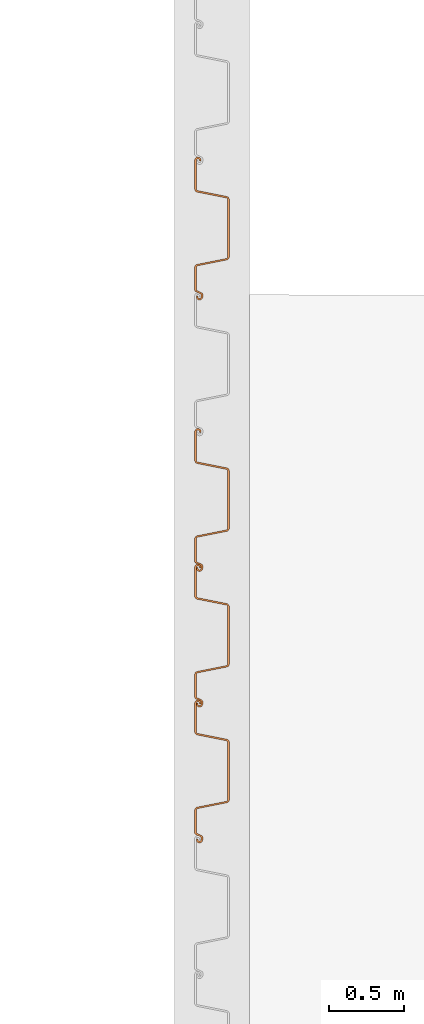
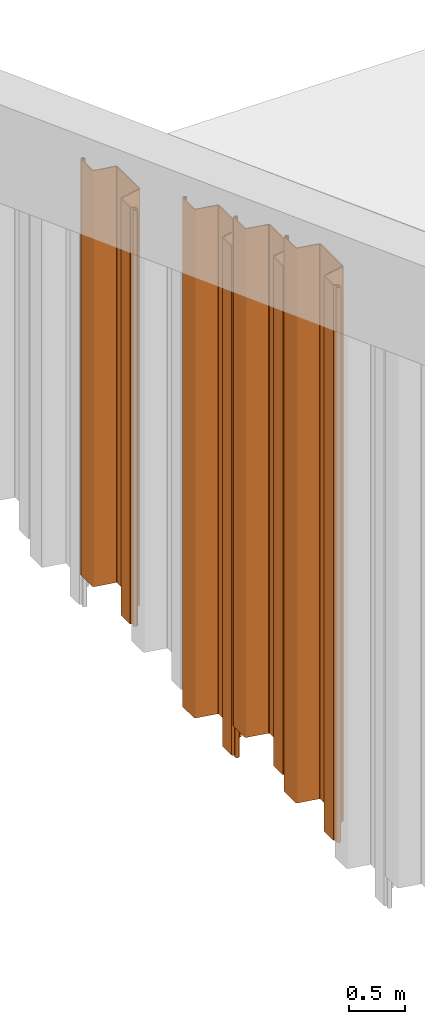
# One storey, part 13 of 15: 4 proxies.
"""IFC2X3 building model written with IfcOpenShell, lengths in millimetres."""

from ifc_helpers import new_model, entity, si_unit, converted_unit, derived_unit, direction, frame, frame_2d, origin, place, context, subcontext, project, spatial, polyline, circle_curve, parameter, trimmed, segment, composite_curve, outline, extrude, source, transform, mapped, material, type_object, type_shapes, element, save


model = new_model("IFC2X3")

# Units and contexts
model_context = context("Model", 3, precision=0.01, world=origin(), true_north=direction((6.12303176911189e-17, 1.0)))
body_context = subcontext(model_context, "Body", "Model", "MODEL_VIEW")
ifc_project = project(units=[si_unit("LENGTHUNIT", "METRE", prefix="MILLI"), si_unit("AREAUNIT", "SQUARE_METRE"), si_unit("VOLUMEUNIT", "CUBIC_METRE"), converted_unit("PLANEANGLEUNIT", "DEGREE", entity("IfcRatioMeasure", 0.0174532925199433), si_unit("PLANEANGLEUNIT", "RADIAN"), dimensions=[0, 0, 0, 0, 0, 0, 0]), si_unit("MASSUNIT", "GRAM", prefix="KILO"), derived_unit("MASSDENSITYUNIT", [(si_unit("MASSUNIT", "GRAM", prefix="KILO"), 1), (si_unit("LENGTHUNIT", "METRE"), -3)]), derived_unit("MOMENTOFINERTIAUNIT", [(si_unit("LENGTHUNIT", "METRE"), 4)]), si_unit("TIMEUNIT", "SECOND"), si_unit("FREQUENCYUNIT", "HERTZ"), si_unit("THERMODYNAMICTEMPERATUREUNIT", "DEGREE_CELSIUS"), derived_unit("THERMALTRANSMITTANCEUNIT", [(si_unit("MASSUNIT", "GRAM", prefix="KILO"), 1), (si_unit("THERMODYNAMICTEMPERATUREUNIT", "KELVIN"), -1), (si_unit("TIMEUNIT", "SECOND"), -3)]), derived_unit("VOLUMETRICFLOWRATEUNIT", [(si_unit("LENGTHUNIT", "METRE"), 3), (si_unit("TIMEUNIT", "SECOND"), -1)]), si_unit("ELECTRICCURRENTUNIT", "AMPERE"), si_unit("ELECTRICVOLTAGEUNIT", "VOLT"), si_unit("POWERUNIT", "WATT"), si_unit("FORCEUNIT", "NEWTON", prefix="KILO"), si_unit("ILLUMINANCEUNIT", "LUX"), si_unit("LUMINOUSFLUXUNIT", "LUMEN"), si_unit("LUMINOUSINTENSITYUNIT", "CANDELA"), derived_unit("USERDEFINED", [(si_unit("MASSUNIT", "GRAM", prefix="KILO"), -1), (si_unit("LENGTHUNIT", "METRE"), -2), (si_unit("TIMEUNIT", "SECOND"), 3), (si_unit("LUMINOUSFLUXUNIT", "LUMEN"), 1)]), derived_unit("LINEARVELOCITYUNIT", [(si_unit("LENGTHUNIT", "METRE"), 1), (si_unit("TIMEUNIT", "SECOND"), -1)]), si_unit("PRESSUREUNIT", "PASCAL"), derived_unit("USERDEFINED", [(si_unit("LENGTHUNIT", "METRE"), -2), (si_unit("MASSUNIT", "GRAM", prefix="KILO"), 1), (si_unit("TIMEUNIT", "SECOND"), -2)]), derived_unit("LINEARFORCEUNIT", [(si_unit("MASSUNIT", "GRAM", prefix="KILO"), 1), (si_unit("LENGTHUNIT", "METRE"), 1), (si_unit("TIMEUNIT", "SECOND"), -2), (si_unit("LENGTHUNIT", "METRE"), -1)]), derived_unit("PLANARFORCEUNIT", [(si_unit("MASSUNIT", "GRAM", prefix="KILO"), 1), (si_unit("LENGTHUNIT", "METRE"), 1), (si_unit("TIMEUNIT", "SECOND"), -2), (si_unit("LENGTHUNIT", "METRE"), -2)])], contexts=[model_context])

# Site, building, storey
site_placement = place(None, origin())
site = spatial("IfcSite", under=ifc_project, at=site_placement, Name="Default", CompositionType="ELEMENT")
building_placement = place(site_placement, origin())
building = spatial("IfcBuilding", under=site, at=building_placement, CompositionType="ELEMENT")
storey_placement = place(building_placement, frame((0.0, 0.0, 9500.0)))
storey = spatial("IfcBuildingStorey", under=building, at=storey_placement, Name="AP+9.500", CompositionType="ELEMENT", Elevation=9500.0)

# Proxies
ifc_material = material(Name="<Unnamed>")
building_element_proxy_type_1 = type_object("IfcBuildingElementProxyType", Name="鋼矢板10H型:鋼矢板10H型", PredefinedType="NOTDEFINED", material=ifc_material)
shared_shape_1 = source(origin(), body_context, "Body", "SweptSolid", [
    extrude(outline(composite_curve([segment(trimmed(circle_curve(frame_2d((85.3662976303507, 306.644432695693), x_axis=(0.422618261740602, 0.906307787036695)), 13.885714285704), [parameter(24.9999999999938)], [parameter(90.0000000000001)], True, "PARAMETER"), True, "CONTINUOUS"), segment(polyline([(72.7815666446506, 312.512789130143), (9.8129512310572, 177.476157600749)]), True, "CONTINUOUS"), segment(trimmed(circle_curve(frame_2d((29.3891994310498, 168.347603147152), x_axis=(0.422618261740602, 0.906307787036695)), 21.6), [parameter(90.0000000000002)], [parameter(168.69006752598)], True, "PARAMETER"), True, "CONTINUOUS"), segment(polyline([(16.598697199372, 150.941769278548), (175.329723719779, 34.2998683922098)]), True, "CONTINUOUS"), segment(trimmed(circle_curve(frame_2d((168.93447260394, 25.596951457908), x_axis=(0.422618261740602, 0.906307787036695)), 10.7999999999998), [parameter(270.0)], [parameter(348.690067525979)], True, "PARAMETER"), False, "CONTINUOUS"), segment(polyline([(178.722596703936, 21.0326742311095), (18.2974003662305, -323.000269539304)]), True, "CONTINUOUS"), segment(trimmed(circle_curve(frame_2d((8.50927626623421, -318.435992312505), x_axis=(0.422618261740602, 0.906307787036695)), 10.8), [parameter(191.30993247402)], [parameter(269.999999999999)], True, "PARAMETER"), False, "CONTINUOUS"), segment(polyline([(5.95324328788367, -328.929166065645), (-185.429973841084, -282.310113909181)]), True, "CONTINUOUS"), segment(trimmed(circle_curve(frame_2d((-190.542039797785, -303.296461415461), x_axis=(0.422618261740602, 0.906307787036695)), 21.6000000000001), [parameter(11.3099324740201)], [parameter(90.0000000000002)], True, "PARAMETER"), True, "CONTINUOUS"), segment(polyline([(-210.118287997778, -294.167906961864), (-290.330886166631, -466.184378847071)]), True, "CONTINUOUS"), segment(trimmed(circle_curve(frame_2d((-270.754637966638, -475.312933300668), x_axis=(0.422618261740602, 0.906307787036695)), 21.6), [parameter(90.0000000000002)], [parameter(269.999999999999)], True, "PARAMETER"), True, "CONTINUOUS"), segment(polyline([(-251.178389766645, -484.441487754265), (-249.065298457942, -479.909948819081)]), True, "CONTINUOUS"), segment(polyline([(-249.065298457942, -479.909948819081), (-258.853422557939, -475.345671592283)]), True, "CONTINUOUS"), segment(polyline([(-258.853422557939, -475.345671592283), (-260.966513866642, -479.877210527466)]), True, "CONTINUOUS"), segment(trimmed(circle_curve(frame_2d((-270.754637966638, -475.312933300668), x_axis=(0.422618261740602, 0.906307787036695)), 10.8), [parameter(90.0000000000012)], [parameter(270.0)], True, "PARAMETER"), False, "CONTINUOUS"), segment(polyline([(-280.542762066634, -470.748656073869), (-200.330163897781, -298.732184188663)]), True, "CONTINUOUS"), segment(trimmed(circle_curve(frame_2d((-190.542039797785, -303.296461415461), x_axis=(0.422618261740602, 0.906307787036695)), 10.8), [parameter(11.3099324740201)], [parameter(89.9999999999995)], True, "PARAMETER"), False, "CONTINUOUS"), segment(polyline([(-187.986006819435, -292.803287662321), (3.39721030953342, -339.422339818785)]), True, "CONTINUOUS"), segment(trimmed(circle_curve(frame_2d((8.50927626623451, -318.435992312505), x_axis=(0.422618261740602, 0.906307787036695)), 21.6), [parameter(191.30993247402)], [parameter(270.0)], True, "PARAMETER"), True, "CONTINUOUS"), segment(polyline([(28.0855244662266, -327.564546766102), (188.510720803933, 16.4683970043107)]), True, "CONTINUOUS"), segment(trimmed(circle_curve(frame_2d((168.93447260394, 25.5969514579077), x_axis=(0.422618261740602, 0.906307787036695)), 21.6), [parameter(270.0)], [parameter(348.69006752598)], True, "PARAMETER"), True, "CONTINUOUS"), segment(polyline([(181.724974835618, 43.0027853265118), (22.9939483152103, 159.644686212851)]), True, "CONTINUOUS"), segment(trimmed(circle_curve(frame_2d((29.3891994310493, 168.347603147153), x_axis=(0.422618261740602, 0.906307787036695)), 10.7999999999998), [parameter(89.9999999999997)], [parameter(168.690067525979)], True, "PARAMETER"), False, "CONTINUOUS"), segment(polyline([(19.6010753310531, 172.911880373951), (82.5696907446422, 307.948511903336)]), True, "CONTINUOUS"), segment(trimmed(circle_curve(frame_2d((85.3662976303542, 306.64443269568), x_axis=(0.422618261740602, 0.906307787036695)), 3.08571428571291), [parameter(25.0000000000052)], [parameter(90.0000000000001)], True, "PARAMETER"), False, "CONTINUOUS"), segment(polyline([(85.3662976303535, 309.730146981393), (122.220231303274, 309.730146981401)]), True, "CONTINUOUS"), segment(trimmed(circle_curve(frame_2d((122.220231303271, 323.615861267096), x_axis=(0.422618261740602, 0.906307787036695)), 13.8857142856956), [parameter(205.000000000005)], [parameter(270.0)], True, "PARAMETER"), True, "CONTINUOUS"), segment(polyline([(134.804962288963, 317.747504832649), (141.079261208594, 331.202782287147)]), True, "CONTINUOUS"), segment(trimmed(circle_curve(frame_2d((121.503013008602, 340.331336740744), x_axis=(0.422618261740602, 0.906307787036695)), 21.6), [parameter(270.0)], [parameter(90.0000000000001)], True, "PARAMETER"), True, "CONTINUOUS"), segment(polyline([(101.926764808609, 349.459891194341), (99.8136734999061, 344.928352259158)]), True, "CONTINUOUS"), segment(polyline([(99.8136734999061, 344.928352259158), (109.601797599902, 340.364075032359)]), True, "CONTINUOUS"), segment(polyline([(109.601797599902, 340.364075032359), (111.714888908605, 344.895613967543)]), True, "CONTINUOUS"), segment(trimmed(circle_curve(frame_2d((121.503013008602, 340.331336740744), x_axis=(0.422618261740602, 0.906307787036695)), 10.8), [parameter(270.0)], [parameter(89.9999999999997)], True, "PARAMETER"), False, "CONTINUOUS"), segment(polyline([(131.291137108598, 335.767059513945), (125.01683818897, 322.311782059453)]), True, "CONTINUOUS"), segment(trimmed(circle_curve(frame_2d((122.220231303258, 323.615861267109), x_axis=(0.422618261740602, 0.906307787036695)), 3.08571428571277), [parameter(204.999999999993)], [parameter(270.0)], True, "PARAMETER"), False, "CONTINUOUS"), segment(polyline([(122.220231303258, 320.530146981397), (85.3662976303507, 320.530146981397)]), True, "CONTINUOUS")], self_intersect=False)), frame((95.205667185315, -48.8888888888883, -4500.0), z_axis=(0.0, 0.0, -1.0), x_axis=(0.4226182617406, 0.906307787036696, 0.0)), (0.0, 0.0, -1.0), 4500.0),
])
type_shapes(building_element_proxy_type_1, [shared_shape_1])
proxy_1_placement = place(storey_placement, frame((89754.0, 23005.0, 809.453726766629), z_axis=(0.0, 0.0, 1.0), x_axis=(0.0, -1.0, 0.0)))
element("IfcBuildingElementProxy", 1, at=proxy_1_placement, inside=storey, type_object=building_element_proxy_type_1, material=ifc_material, Name="鋼矢板10H型:鋼矢板10H型", ObjectType="鋼矢板10H型:鋼矢板10H型", context=body_context, shape_type="MappedRepresentation", body=[
    mapped(shared_shape_1, transform((0.0, 0.0, 0.0), scale=1.0)),
])
building_element_proxy_type_2 = type_object("IfcBuildingElementProxyType", Name="鋼矢板10H型:鋼矢板10H型", PredefinedType="NOTDEFINED", material=ifc_material)
shared_shape_2 = source(origin(), body_context, "Body", "SweptSolid", [
    extrude(outline(composite_curve([segment(trimmed(circle_curve(frame_2d((85.3662976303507, 306.644432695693), x_axis=(0.422618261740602, 0.906307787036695)), 13.885714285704), [parameter(24.9999999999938)], [parameter(90.0000000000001)], True, "PARAMETER"), True, "CONTINUOUS"), segment(polyline([(72.7815666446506, 312.512789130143), (9.8129512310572, 177.476157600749)]), True, "CONTINUOUS"), segment(trimmed(circle_curve(frame_2d((29.3891994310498, 168.347603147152), x_axis=(0.422618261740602, 0.906307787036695)), 21.6), [parameter(90.0000000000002)], [parameter(168.69006752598)], True, "PARAMETER"), True, "CONTINUOUS"), segment(polyline([(16.598697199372, 150.941769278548), (175.329723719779, 34.2998683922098)]), True, "CONTINUOUS"), segment(trimmed(circle_curve(frame_2d((168.93447260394, 25.596951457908), x_axis=(0.422618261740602, 0.906307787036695)), 10.7999999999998), [parameter(270.0)], [parameter(348.690067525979)], True, "PARAMETER"), False, "CONTINUOUS"), segment(polyline([(178.722596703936, 21.0326742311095), (18.2974003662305, -323.000269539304)]), True, "CONTINUOUS"), segment(trimmed(circle_curve(frame_2d((8.50927626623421, -318.435992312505), x_axis=(0.422618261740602, 0.906307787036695)), 10.8), [parameter(191.30993247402)], [parameter(269.999999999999)], True, "PARAMETER"), False, "CONTINUOUS"), segment(polyline([(5.95324328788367, -328.929166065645), (-185.429973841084, -282.310113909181)]), True, "CONTINUOUS"), segment(trimmed(circle_curve(frame_2d((-190.542039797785, -303.296461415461), x_axis=(0.422618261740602, 0.906307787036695)), 21.6000000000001), [parameter(11.3099324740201)], [parameter(90.0000000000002)], True, "PARAMETER"), True, "CONTINUOUS"), segment(polyline([(-210.118287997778, -294.167906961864), (-290.330886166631, -466.184378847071)]), True, "CONTINUOUS"), segment(trimmed(circle_curve(frame_2d((-270.754637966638, -475.312933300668), x_axis=(0.422618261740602, 0.906307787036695)), 21.6), [parameter(90.0000000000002)], [parameter(269.999999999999)], True, "PARAMETER"), True, "CONTINUOUS"), segment(polyline([(-251.178389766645, -484.441487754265), (-249.065298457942, -479.909948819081)]), True, "CONTINUOUS"), segment(polyline([(-249.065298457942, -479.909948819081), (-258.853422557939, -475.345671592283)]), True, "CONTINUOUS"), segment(polyline([(-258.853422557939, -475.345671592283), (-260.966513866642, -479.877210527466)]), True, "CONTINUOUS"), segment(trimmed(circle_curve(frame_2d((-270.754637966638, -475.312933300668), x_axis=(0.422618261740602, 0.906307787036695)), 10.8), [parameter(90.0000000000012)], [parameter(270.0)], True, "PARAMETER"), False, "CONTINUOUS"), segment(polyline([(-280.542762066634, -470.748656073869), (-200.330163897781, -298.732184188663)]), True, "CONTINUOUS"), segment(trimmed(circle_curve(frame_2d((-190.542039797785, -303.296461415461), x_axis=(0.422618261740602, 0.906307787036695)), 10.8), [parameter(11.3099324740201)], [parameter(89.9999999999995)], True, "PARAMETER"), False, "CONTINUOUS"), segment(polyline([(-187.986006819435, -292.803287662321), (3.39721030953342, -339.422339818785)]), True, "CONTINUOUS"), segment(trimmed(circle_curve(frame_2d((8.50927626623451, -318.435992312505), x_axis=(0.422618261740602, 0.906307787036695)), 21.6), [parameter(191.30993247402)], [parameter(270.0)], True, "PARAMETER"), True, "CONTINUOUS"), segment(polyline([(28.0855244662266, -327.564546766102), (188.510720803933, 16.4683970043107)]), True, "CONTINUOUS"), segment(trimmed(circle_curve(frame_2d((168.93447260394, 25.5969514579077), x_axis=(0.422618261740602, 0.906307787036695)), 21.6), [parameter(270.0)], [parameter(348.69006752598)], True, "PARAMETER"), True, "CONTINUOUS"), segment(polyline([(181.724974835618, 43.0027853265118), (22.9939483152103, 159.644686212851)]), True, "CONTINUOUS"), segment(trimmed(circle_curve(frame_2d((29.3891994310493, 168.347603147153), x_axis=(0.422618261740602, 0.906307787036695)), 10.7999999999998), [parameter(89.9999999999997)], [parameter(168.690067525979)], True, "PARAMETER"), False, "CONTINUOUS"), segment(polyline([(19.6010753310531, 172.911880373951), (82.5696907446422, 307.948511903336)]), True, "CONTINUOUS"), segment(trimmed(circle_curve(frame_2d((85.3662976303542, 306.64443269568), x_axis=(0.422618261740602, 0.906307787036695)), 3.08571428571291), [parameter(25.0000000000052)], [parameter(90.0000000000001)], True, "PARAMETER"), False, "CONTINUOUS"), segment(polyline([(85.3662976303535, 309.730146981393), (122.220231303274, 309.730146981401)]), True, "CONTINUOUS"), segment(trimmed(circle_curve(frame_2d((122.220231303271, 323.615861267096), x_axis=(0.422618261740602, 0.906307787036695)), 13.8857142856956), [parameter(205.000000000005)], [parameter(270.0)], True, "PARAMETER"), True, "CONTINUOUS"), segment(polyline([(134.804962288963, 317.747504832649), (141.079261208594, 331.202782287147)]), True, "CONTINUOUS"), segment(trimmed(circle_curve(frame_2d((121.503013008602, 340.331336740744), x_axis=(0.422618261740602, 0.906307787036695)), 21.6), [parameter(270.0)], [parameter(90.0000000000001)], True, "PARAMETER"), True, "CONTINUOUS"), segment(polyline([(101.926764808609, 349.459891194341), (99.8136734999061, 344.928352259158)]), True, "CONTINUOUS"), segment(polyline([(99.8136734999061, 344.928352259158), (109.601797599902, 340.364075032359)]), True, "CONTINUOUS"), segment(polyline([(109.601797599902, 340.364075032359), (111.714888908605, 344.895613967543)]), True, "CONTINUOUS"), segment(trimmed(circle_curve(frame_2d((121.503013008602, 340.331336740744), x_axis=(0.422618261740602, 0.906307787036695)), 10.8), [parameter(270.0)], [parameter(89.9999999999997)], True, "PARAMETER"), False, "CONTINUOUS"), segment(polyline([(131.291137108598, 335.767059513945), (125.01683818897, 322.311782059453)]), True, "CONTINUOUS"), segment(trimmed(circle_curve(frame_2d((122.220231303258, 323.615861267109), x_axis=(0.422618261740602, 0.906307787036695)), 3.08571428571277), [parameter(204.999999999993)], [parameter(270.0)], True, "PARAMETER"), False, "CONTINUOUS"), segment(polyline([(122.220231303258, 320.530146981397), (85.3662976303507, 320.530146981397)]), True, "CONTINUOUS")], self_intersect=False)), frame((95.205667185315, -48.8888888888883, -5500.0), z_axis=(0.0, 0.0, -1.0), x_axis=(0.4226182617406, 0.906307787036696, 0.0)), (0.0, 0.0, -1.0), 5500.0),
])
type_shapes(building_element_proxy_type_2, [shared_shape_2])
for number, where, z_axis, x_axis in (
    (2, (89754.0, 21205.0, 1481.74177579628), (0.0, 0.0, 1.0), (0.0, -1.0, 0.0)),
    (3, (89754.0, 20305.0, 1817.88580031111), (0.0, 0.0, 1.0), (0.0, -1.0, 0.0)),
):
    element("IfcBuildingElementProxy", number, at=place(storey_placement, frame(where, z_axis=z_axis, x_axis=x_axis)), inside=storey, type_object=building_element_proxy_type_2, material=ifc_material, Name="鋼矢板10H型:鋼矢板10H型", ObjectType="鋼矢板10H型:鋼矢板10H型", context=body_context, shape_type="MappedRepresentation", body=[
        mapped(shared_shape_2, transform((0.0, 0.0, 0.0), scale=1.0)),
    ])
building_element_proxy_type_3 = type_object("IfcBuildingElementProxyType", Name="鋼矢板10H型:鋼矢板10H型", PredefinedType="NOTDEFINED", material=ifc_material)
shared_shape_3 = source(origin(), body_context, "Body", "SweptSolid", [
    extrude(outline(composite_curve([segment(trimmed(circle_curve(frame_2d((85.3662976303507, 306.644432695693), x_axis=(0.422618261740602, 0.906307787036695)), 13.885714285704), [parameter(24.9999999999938)], [parameter(90.0000000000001)], True, "PARAMETER"), True, "CONTINUOUS"), segment(polyline([(72.7815666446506, 312.512789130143), (9.8129512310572, 177.476157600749)]), True, "CONTINUOUS"), segment(trimmed(circle_curve(frame_2d((29.3891994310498, 168.347603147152), x_axis=(0.422618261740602, 0.906307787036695)), 21.6), [parameter(90.0000000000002)], [parameter(168.69006752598)], True, "PARAMETER"), True, "CONTINUOUS"), segment(polyline([(16.598697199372, 150.941769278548), (175.329723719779, 34.2998683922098)]), True, "CONTINUOUS"), segment(trimmed(circle_curve(frame_2d((168.93447260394, 25.596951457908), x_axis=(0.422618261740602, 0.906307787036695)), 10.7999999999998), [parameter(270.0)], [parameter(348.690067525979)], True, "PARAMETER"), False, "CONTINUOUS"), segment(polyline([(178.722596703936, 21.0326742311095), (18.2974003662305, -323.000269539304)]), True, "CONTINUOUS"), segment(trimmed(circle_curve(frame_2d((8.50927626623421, -318.435992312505), x_axis=(0.422618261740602, 0.906307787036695)), 10.8), [parameter(191.30993247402)], [parameter(269.999999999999)], True, "PARAMETER"), False, "CONTINUOUS"), segment(polyline([(5.95324328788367, -328.929166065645), (-185.429973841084, -282.310113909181)]), True, "CONTINUOUS"), segment(trimmed(circle_curve(frame_2d((-190.542039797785, -303.296461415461), x_axis=(0.422618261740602, 0.906307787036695)), 21.6000000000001), [parameter(11.3099324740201)], [parameter(90.0000000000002)], True, "PARAMETER"), True, "CONTINUOUS"), segment(polyline([(-210.118287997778, -294.167906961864), (-290.330886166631, -466.184378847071)]), True, "CONTINUOUS"), segment(trimmed(circle_curve(frame_2d((-270.754637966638, -475.312933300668), x_axis=(0.422618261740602, 0.906307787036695)), 21.6), [parameter(90.0000000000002)], [parameter(269.999999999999)], True, "PARAMETER"), True, "CONTINUOUS"), segment(polyline([(-251.178389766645, -484.441487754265), (-249.065298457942, -479.909948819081)]), True, "CONTINUOUS"), segment(polyline([(-249.065298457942, -479.909948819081), (-258.853422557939, -475.345671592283)]), True, "CONTINUOUS"), segment(polyline([(-258.853422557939, -475.345671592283), (-260.966513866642, -479.877210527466)]), True, "CONTINUOUS"), segment(trimmed(circle_curve(frame_2d((-270.754637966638, -475.312933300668), x_axis=(0.422618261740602, 0.906307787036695)), 10.8), [parameter(90.0000000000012)], [parameter(270.0)], True, "PARAMETER"), False, "CONTINUOUS"), segment(polyline([(-280.542762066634, -470.748656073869), (-200.330163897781, -298.732184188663)]), True, "CONTINUOUS"), segment(trimmed(circle_curve(frame_2d((-190.542039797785, -303.296461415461), x_axis=(0.422618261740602, 0.906307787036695)), 10.8), [parameter(11.3099324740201)], [parameter(89.9999999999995)], True, "PARAMETER"), False, "CONTINUOUS"), segment(polyline([(-187.986006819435, -292.803287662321), (3.39721030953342, -339.422339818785)]), True, "CONTINUOUS"), segment(trimmed(circle_curve(frame_2d((8.50927626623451, -318.435992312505), x_axis=(0.422618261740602, 0.906307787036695)), 21.6), [parameter(191.30993247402)], [parameter(270.0)], True, "PARAMETER"), True, "CONTINUOUS"), segment(polyline([(28.0855244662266, -327.564546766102), (188.510720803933, 16.4683970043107)]), True, "CONTINUOUS"), segment(trimmed(circle_curve(frame_2d((168.93447260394, 25.5969514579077), x_axis=(0.422618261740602, 0.906307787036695)), 21.6), [parameter(270.0)], [parameter(348.69006752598)], True, "PARAMETER"), True, "CONTINUOUS"), segment(polyline([(181.724974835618, 43.0027853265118), (22.9939483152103, 159.644686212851)]), True, "CONTINUOUS"), segment(trimmed(circle_curve(frame_2d((29.3891994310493, 168.347603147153), x_axis=(0.422618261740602, 0.906307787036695)), 10.7999999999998), [parameter(89.9999999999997)], [parameter(168.690067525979)], True, "PARAMETER"), False, "CONTINUOUS"), segment(polyline([(19.6010753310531, 172.911880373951), (82.5696907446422, 307.948511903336)]), True, "CONTINUOUS"), segment(trimmed(circle_curve(frame_2d((85.3662976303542, 306.64443269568), x_axis=(0.422618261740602, 0.906307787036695)), 3.08571428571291), [parameter(25.0000000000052)], [parameter(90.0000000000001)], True, "PARAMETER"), False, "CONTINUOUS"), segment(polyline([(85.3662976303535, 309.730146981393), (122.220231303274, 309.730146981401)]), True, "CONTINUOUS"), segment(trimmed(circle_curve(frame_2d((122.220231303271, 323.615861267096), x_axis=(0.422618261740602, 0.906307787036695)), 13.8857142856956), [parameter(205.000000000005)], [parameter(270.0)], True, "PARAMETER"), True, "CONTINUOUS"), segment(polyline([(134.804962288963, 317.747504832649), (141.079261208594, 331.202782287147)]), True, "CONTINUOUS"), segment(trimmed(circle_curve(frame_2d((121.503013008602, 340.331336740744), x_axis=(0.422618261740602, 0.906307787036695)), 21.6), [parameter(270.0)], [parameter(90.0000000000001)], True, "PARAMETER"), True, "CONTINUOUS"), segment(polyline([(101.926764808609, 349.459891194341), (99.8136734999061, 344.928352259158)]), True, "CONTINUOUS"), segment(polyline([(99.8136734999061, 344.928352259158), (109.601797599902, 340.364075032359)]), True, "CONTINUOUS"), segment(polyline([(109.601797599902, 340.364075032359), (111.714888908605, 344.895613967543)]), True, "CONTINUOUS"), segment(trimmed(circle_curve(frame_2d((121.503013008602, 340.331336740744), x_axis=(0.422618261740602, 0.906307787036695)), 10.8), [parameter(270.0)], [parameter(89.9999999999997)], True, "PARAMETER"), False, "CONTINUOUS"), segment(polyline([(131.291137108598, 335.767059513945), (125.01683818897, 322.311782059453)]), True, "CONTINUOUS"), segment(trimmed(circle_curve(frame_2d((122.220231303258, 323.615861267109), x_axis=(0.422618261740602, 0.906307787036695)), 3.08571428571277), [parameter(204.999999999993)], [parameter(270.0)], True, "PARAMETER"), False, "CONTINUOUS"), segment(polyline([(122.220231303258, 320.530146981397), (85.3662976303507, 320.530146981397)]), True, "CONTINUOUS")], self_intersect=False)), frame((95.205667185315, -48.8888888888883, -6000.0), z_axis=(0.0, 0.0, -1.0), x_axis=(0.4226182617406, 0.906307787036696, 0.0)), (0.0, 0.0, -1.0), 6000.0),
])
type_shapes(building_element_proxy_type_3, [shared_shape_3])
proxy_2_placement = place(storey_placement, frame((89754.0, 19405.0, 2154.02982482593), z_axis=(0.0, 0.0, 1.0), x_axis=(0.0, -1.0, 0.0)))
element("IfcBuildingElementProxy", 4, at=proxy_2_placement, inside=storey, type_object=building_element_proxy_type_3, material=ifc_material, Name="鋼矢板10H型:鋼矢板10H型", ObjectType="鋼矢板10H型:鋼矢板10H型", context=body_context, shape_type="MappedRepresentation", body=[
    mapped(shared_shape_3, transform((0.0, 0.0, 0.0), scale=1.0)),
])

save(model, "model.ifc")
